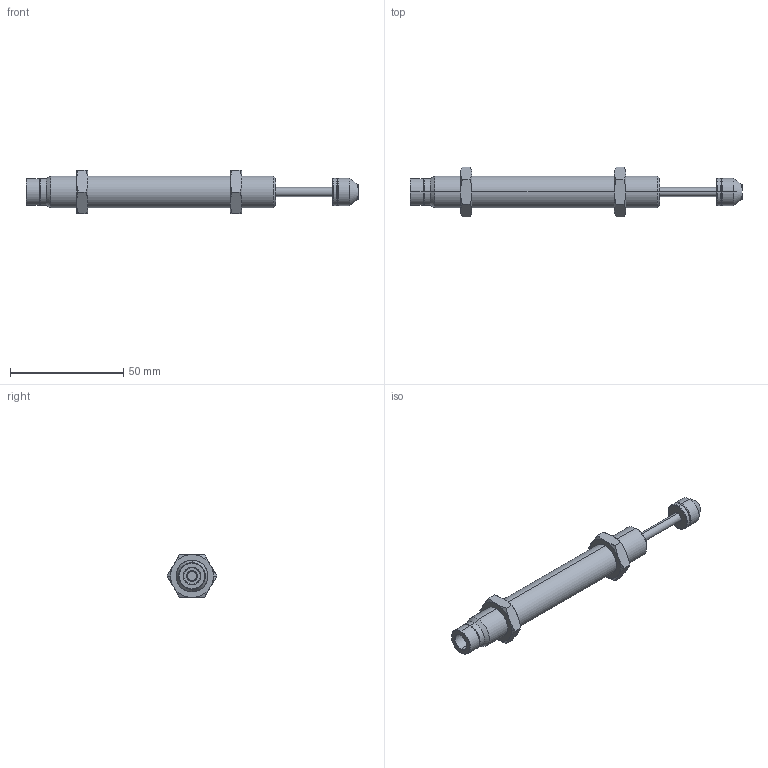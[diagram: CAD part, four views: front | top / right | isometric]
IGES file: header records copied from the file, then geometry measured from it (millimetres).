
Start section: SolidWorks IGES file using analytic representation for surfaces
Global section: file name: D:\IGS跡宒\AC1425(P1.0).IGS,1; native system: 5HSolidWorks 2013; preprocessor: SolidWorks 2013; author: Administrator; date: 160412.105749; units: inch
Bounding box: 146.3 x 21.94 x 19 mm (x, y, z)
Surface area: 8205.2 mm2 (no closed solid volume)
Topology: 0 solids, 0 shells, 91 faces, 1432 edges, 1432 vertices
Faces by surface type: revolution 66, bspline 25
